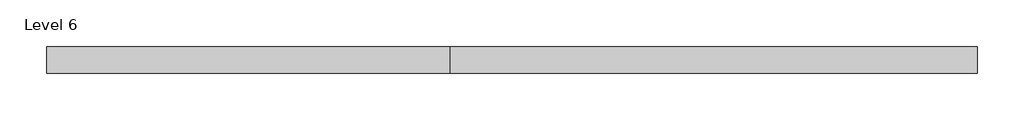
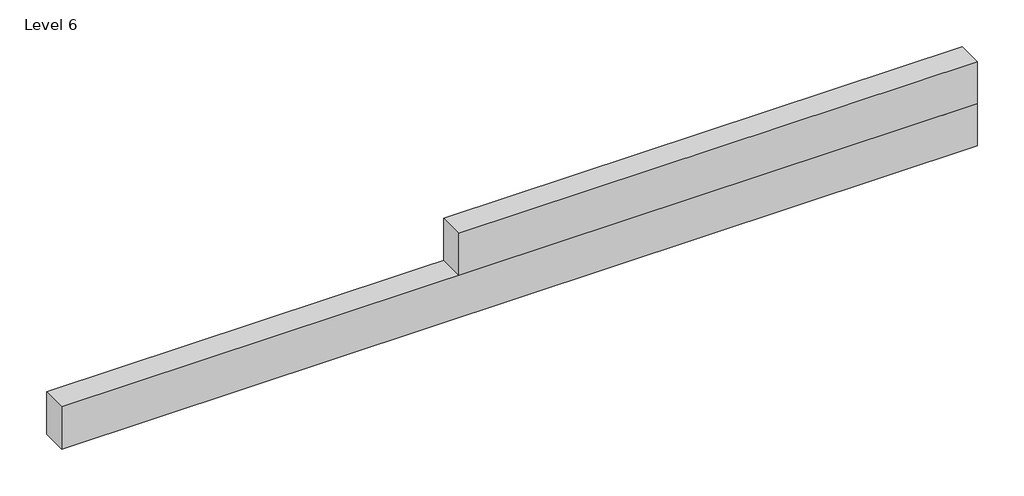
# One storey: 1 proxy.
"""IFC4 building model written with IfcOpenShell, lengths in millimetres."""

from ifc_helpers import new_model, si_unit, origin, place, context, project, spatial, transform, mapped, element, save
from components import generic_models_17_generic_models_2_1d2f877d

model = new_model("IFC4")

# Units and contexts
model_context = context("Model", 3, world=origin())
ifc_project = project(units=[si_unit("LENGTHUNIT", "METRE", prefix="MILLI")], contexts=[model_context])

# Site, building, storey
site = spatial("IfcSite", under=ifc_project)
building = spatial("IfcBuilding", under=site)
storey = spatial("IfcBuildingStorey", under=building, Name="Level 6", Elevation=15000.0)

# Proxy
placement = place(None, origin())
generic_models_17_generic_models_2_shape = generic_models_17_generic_models_2_1d2f877d(model_context)
element("IfcBuildingElementProxy", 1, Name="Generic Models 17 : Generic Models 2", ObjectType="Generic Models 17 : Generic Models 2", at=placement, inside=storey, context=model_context, shape_type="MappedRepresentation", body=[
    mapped(generic_models_17_generic_models_2_shape, transform((0.0, 0.0, 0.0), x_axis=(1.0, 0.0, 0.0), y_axis=(0.0, 1.0, 0.0), z_axis=(0.0, 0.0, 1.0))),
])

save(model, "model.ifc")
